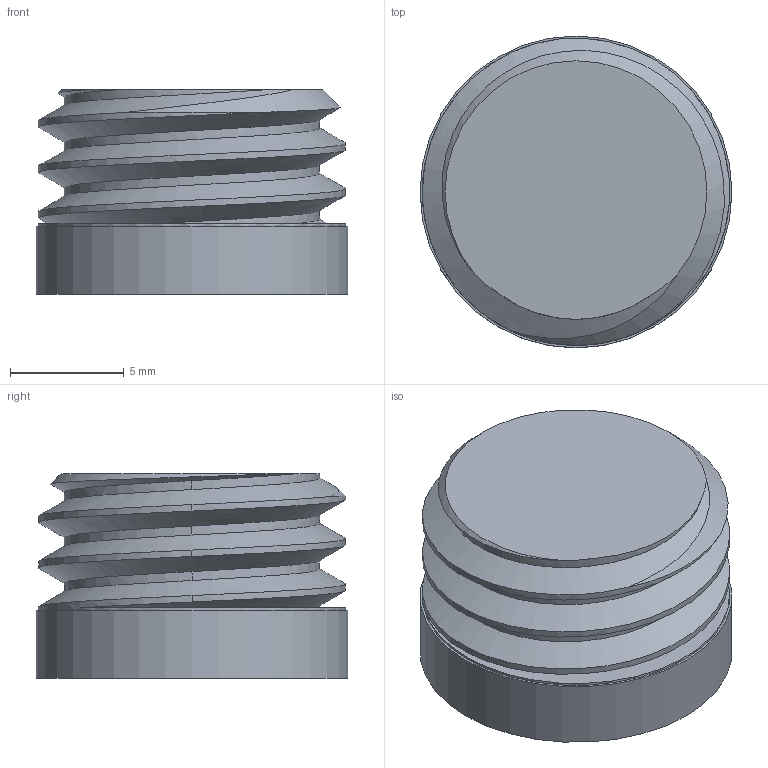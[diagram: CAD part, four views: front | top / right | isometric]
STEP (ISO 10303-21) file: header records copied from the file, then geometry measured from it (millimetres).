
FILE_DESCRIPTION(/* description */ ('','CAx-IF Rec.Pracs.---Representation and Presentation of Product Manufacturing Information (PMI)---4.0---2014-10-13'),/* implementation_level */ '2;1');
FILE_NAME(/* name */ 'Flush retaining bolt - hex.step',/* time_stamp */ '2024-12-08T07:49:10Z',/* author */ (''),/* organization */ (''),/* preprocessor_version */ 'ST-DEVELOPER v20',/* originating_system */ 'Autodesk Translation Framework v13.20.0.188',/* authorisation */ '');
FILE_SCHEMA (('AP242_MANAGED_MODEL_BASED_3D_ENGINEERING_MIM_LF { 1 0 10303 442 1 1 4 }'));
Length unit declared in the file: millimetre
Products named in the file (1): Flush retaining bolt - hex
Bounding box: 13.72 x 13.72 x 9 mm (x, y, z)
Volume: 939.9 mm3; surface area: 880.6 mm2
Topology: 1 solids, 1 shells, 29 faces, 69 edges, 44 vertices
Faces by surface type: plane 17, cylinder 9, bspline 2, cone 1
Full cylindrical faces by diameter (mm): 11.234 x2, 13.522 x3, 13.722 x1
Entity records: 2055 total; most frequent: CARTESIAN_POINT 1391, ORIENTED_EDGE 138, DIRECTION 112, EDGE_CURVE 69, VERTEX_POINT 44, LINE 38, VECTOR 38, AXIS2_PLACEMENT_3D 37
